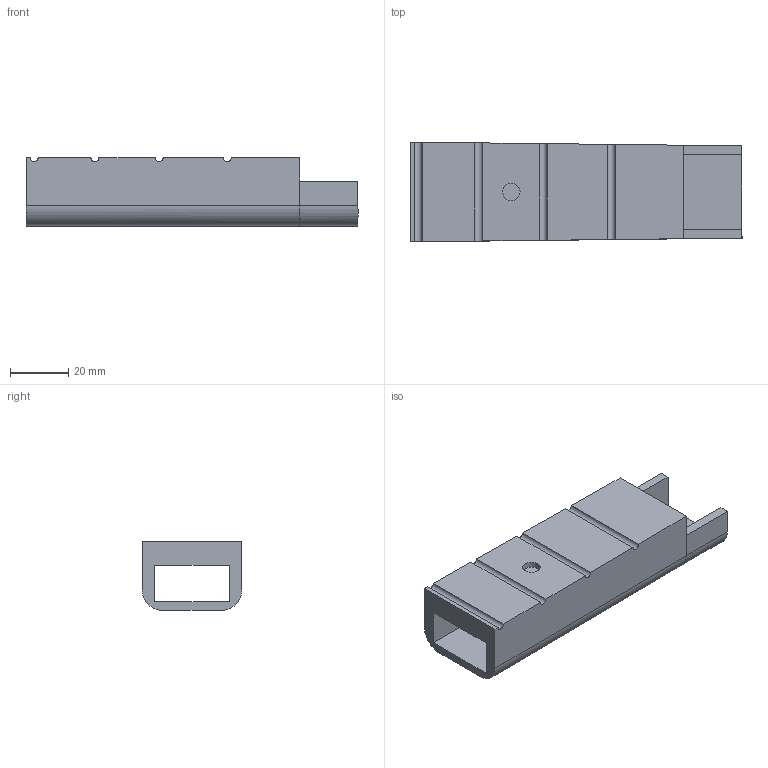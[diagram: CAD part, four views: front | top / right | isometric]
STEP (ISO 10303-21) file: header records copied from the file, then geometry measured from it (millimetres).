
FILE_DESCRIPTION(('STEP AP203'), '1');
FILE_NAME('ëàä 1', '', ('UNSPECIFIED'), ('UNSPECIFIED'), 'ASCON STEP Converter 1.3', 'ASCON Math Kernel', '');
FILE_SCHEMA(('CONFIG_CONTROL_DESIGN'));
Length unit declared in the file: millimetre
Bounding box: 113.58 x 34.12 x 23.5 mm (x, y, z)
Volume: 43159.9 mm3; surface area: 20544.3 mm2
Topology: 1 solids, 1 shells, 29 faces, 75 edges, 48 vertices
Faces by surface type: plane 20, cylinder 9
Full cylindrical faces by diameter (mm): 6 x1
Entity records: 1140 total; most frequent: CARTESIAN_POINT 188, ORIENTED_EDGE 148, DIRECTION 126, EDGE_CURVE 74, LINE 58, VECTOR 58, VERTEX_POINT 48, AXIS2_PLACEMENT_3D 34
